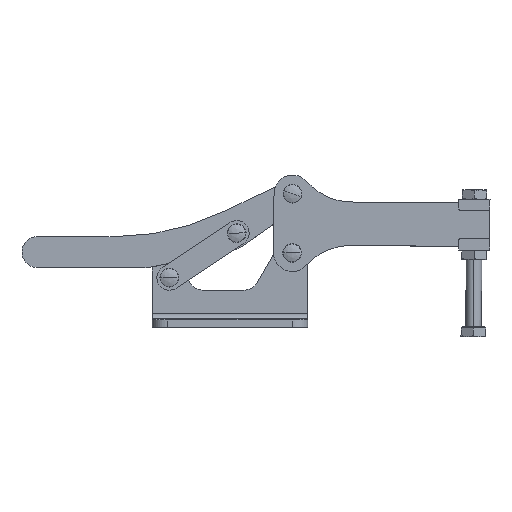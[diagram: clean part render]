
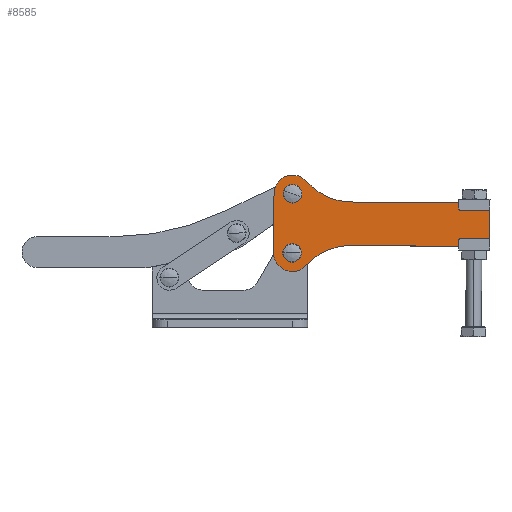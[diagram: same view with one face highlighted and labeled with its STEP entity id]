
A CAD part, top view. The second image highlights one B-rep face of the part: STEP entity #8585.
In plain terms, the highlighted planar face has unit normal (0, 0, 1).
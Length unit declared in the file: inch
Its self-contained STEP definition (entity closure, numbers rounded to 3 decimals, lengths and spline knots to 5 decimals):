
#8155=CARTESIAN_POINT('',(0.247,1.0315,0.1196));
#8156=VERTEX_POINT('',#8155);
#8165=CARTESIAN_POINT('',(0.501,1.0315,0.1196));
#8166=VERTEX_POINT('',#8165);
#8167=CARTESIAN_POINT('',(0.374,1.0315,0.1196));
#8168=DIRECTION('',(0.0,0.0,-1.0));
#8169=DIRECTION('',(-1.0,0.0,0.0));
#8170=AXIS2_PLACEMENT_3D('',#8167,#8168,#8169);
#8171=CIRCLE('',#8170,0.127);
#8172=EDGE_CURVE('',#8166,#8156,#8171,.T.);
#8197=CARTESIAN_POINT('',(0.247,-0.1565,0.1196));
#8198=VERTEX_POINT('',#8197);
#8207=CARTESIAN_POINT('',(0.501,-0.1565,0.1196));
#8208=VERTEX_POINT('',#8207);
#8209=CARTESIAN_POINT('',(0.374,-0.1565,0.1196));
#8210=DIRECTION('',(0.0,0.0,-1.0));
#8211=DIRECTION('',(-1.0,0.0,0.0));
#8212=AXIS2_PLACEMENT_3D('',#8209,#8210,#8211);
#8213=CIRCLE('',#8212,0.127);
#8214=EDGE_CURVE('',#8208,#8198,#8213,.T.);
#8248=CARTESIAN_POINT('',(0.374,-0.1565,0.1196));
#8249=DIRECTION('',(0.0,0.0,-1.0));
#8250=DIRECTION('',(-1.0,0.0,0.0));
#8251=AXIS2_PLACEMENT_3D('',#8248,#8249,#8250);
#8252=CIRCLE('',#8251,0.127);
#8253=EDGE_CURVE('',#8198,#8208,#8252,.T.);
#8272=CARTESIAN_POINT('',(0.374,1.0315,0.1196));
#8273=DIRECTION('',(0.0,0.0,-1.0));
#8274=DIRECTION('',(-1.0,0.0,0.0));
#8275=AXIS2_PLACEMENT_3D('',#8272,#8273,#8274);
#8276=CIRCLE('',#8275,0.127);
#8277=EDGE_CURVE('',#8156,#8166,#8276,.T.);
#8287=CARTESIAN_POINT('',(0.,-0.12913,0.1196));
#8288=VERTEX_POINT('',#8287);
#8289=CARTESIAN_POINT('',(0.,1.05887,0.1196));
#8290=VERTEX_POINT('',#8289);
#8291=CARTESIAN_POINT('',(0.,-0.12913,0.1196));
#8292=DIRECTION('',(0.0,1.0,0.0));
#8293=VECTOR('',#8292,1.188);
#8294=LINE('',#8291,#8293);
#8295=EDGE_CURVE('',#8288,#8290,#8294,.T.);
#8327=CARTESIAN_POINT('',(0.62943,1.30606,0.1196));
#8328=VERTEX_POINT('',#8327);
#8329=CARTESIAN_POINT('',(0.374,1.0315,0.1196));
#8330=DIRECTION('',(0.0,0.0,-1.0));
#8331=DIRECTION('',(0.681,0.732,0.0));
#8332=AXIS2_PLACEMENT_3D('',#8329,#8330,#8331);
#8333=CIRCLE('',#8332,0.375);
#8334=EDGE_CURVE('',#8290,#8328,#8333,.T.);
#8360=CARTESIAN_POINT('',(1.48085,0.875,0.1196));
#8361=VERTEX_POINT('',#8360);
#8362=CARTESIAN_POINT('',(1.577,2.1213,0.1196));
#8363=DIRECTION('',(0.0,0.0,1.));
#8364=DIRECTION('',(0.758,0.652,0.0));
#8365=AXIS2_PLACEMENT_3D('',#8362,#8363,#8364);
#8366=CIRCLE('',#8365,1.25);
#8367=EDGE_CURVE('',#8328,#8361,#8366,.T.);
#8393=CARTESIAN_POINT('',(4.343,0.875,0.1196));
#8394=VERTEX_POINT('',#8393);
#8395=CARTESIAN_POINT('',(1.48085,0.875,0.1196));
#8396=DIRECTION('',(1.0,0.0,0.0));
#8397=VECTOR('',#8396,2.86215);
#8398=LINE('',#8395,#8397);
#8399=EDGE_CURVE('',#8361,#8394,#8398,.T.);
#8424=CARTESIAN_POINT('',(4.343,0.0,0.1196));
#8425=VERTEX_POINT('',#8424);
#8426=CARTESIAN_POINT('',(4.343,0.875,0.1196));
#8427=DIRECTION('',(0.0,-1.0,0.0));
#8428=VECTOR('',#8427,0.875);
#8429=LINE('',#8426,#8428);
#8430=EDGE_CURVE('',#8394,#8425,#8429,.T.);
#8455=CARTESIAN_POINT('',(1.48085,0.,0.1196));
#8456=VERTEX_POINT('',#8455);
#8457=CARTESIAN_POINT('',(4.343,0.0,0.1196));
#8458=DIRECTION('',(-1.0,0.0,0.0));
#8459=VECTOR('',#8458,2.86215);
#8460=LINE('',#8457,#8459);
#8461=EDGE_CURVE('',#8425,#8456,#8460,.T.);
#8486=CARTESIAN_POINT('',(0.67238,-0.38364,0.1196));
#8487=VERTEX_POINT('',#8486);
#8488=CARTESIAN_POINT('',(1.577,-1.2463,0.1196));
#8489=DIRECTION('',(0.0,0.0,1.));
#8490=DIRECTION('',(0.077,-0.997,0.0));
#8491=AXIS2_PLACEMENT_3D('',#8488,#8489,#8490);
#8492=CIRCLE('',#8491,1.25);
#8493=EDGE_CURVE('',#8456,#8487,#8492,.T.);
#8519=CARTESIAN_POINT('',(0.374,-0.1565,0.1196));
#8520=DIRECTION('',(0.0,0.0,-1.));
#8521=DIRECTION('',(-0.997,0.073,0.0));
#8522=AXIS2_PLACEMENT_3D('',#8519,#8520,#8521);
#8523=CIRCLE('',#8522,0.375);
#8524=EDGE_CURVE('',#8487,#8288,#8523,.T.);
#8562=CARTESIAN_POINT('',(1.99721,0.43797,0.1196));
#8563=DIRECTION('',(0.0,0.0,1.0));
#8564=DIRECTION('',(1.0,0.0,0.0));
#8565=AXIS2_PLACEMENT_3D('',#8562,#8563,#8564);
#8566=PLANE('',#8565);
#8567=ORIENTED_EDGE('',*,*,#8295,.F.);
#8568=ORIENTED_EDGE('',*,*,#8524,.F.);
#8569=ORIENTED_EDGE('',*,*,#8493,.F.);
#8570=ORIENTED_EDGE('',*,*,#8461,.F.);
#8571=ORIENTED_EDGE('',*,*,#8430,.F.);
#8572=ORIENTED_EDGE('',*,*,#8399,.F.);
#8573=ORIENTED_EDGE('',*,*,#8367,.F.);
#8574=ORIENTED_EDGE('',*,*,#8334,.F.);
#8575=EDGE_LOOP('',(#8567,#8568,#8569,#8570,#8571,#8572,#8573,#8574));
#8576=FACE_OUTER_BOUND('',#8575,.T.);
#8577=ORIENTED_EDGE('',*,*,#8214,.T.);
#8578=ORIENTED_EDGE('',*,*,#8253,.T.);
#8579=EDGE_LOOP('',(#8577,#8578));
#8580=FACE_BOUND('',#8579,.T.);
#8581=ORIENTED_EDGE('',*,*,#8172,.T.);
#8582=ORIENTED_EDGE('',*,*,#8277,.T.);
#8583=EDGE_LOOP('',(#8581,#8582));
#8584=FACE_BOUND('',#8583,.T.);
#8585=ADVANCED_FACE('',(#8576,#8580,#8584),#8566,.T.);
